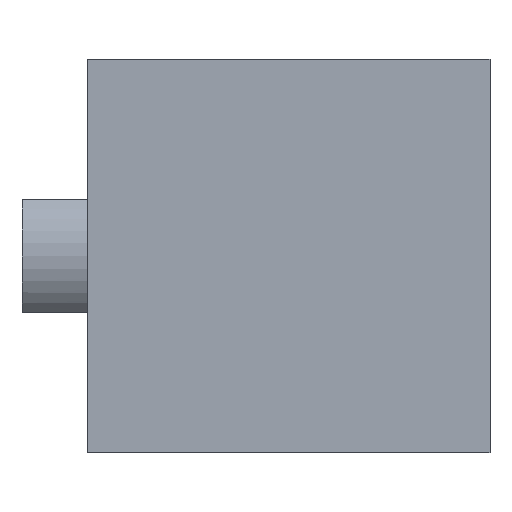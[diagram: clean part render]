
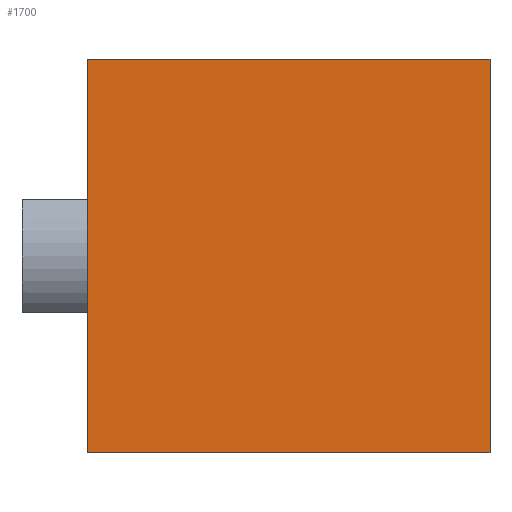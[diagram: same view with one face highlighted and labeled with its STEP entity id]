
A CAD part, front view. The second image highlights one B-rep face of the part: STEP entity #1700.
In plain terms, the highlighted planar face has unit normal (0, -1, 0).
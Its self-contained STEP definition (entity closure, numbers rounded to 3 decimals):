
#45 = CARTESIAN_POINT ( 'NONE',  ( 21.5, -17., -10.5 ) ) ;
#184 = ORIENTED_EDGE ( 'NONE', *, *, #2168, .T. ) ;
#232 = DIRECTION ( 'NONE',  ( -1., 0., 0. ) ) ;
#259 = CARTESIAN_POINT ( 'NONE',  ( 0., -17., -10.5 ) ) ;
#281 = LINE ( 'NONE', #45, #3119 ) ;
#326 = CARTESIAN_POINT ( 'NONE',  ( 21.5, -17., -10.5 ) ) ;
#432 = DIRECTION ( 'NONE',  ( 1., 0., 0. ) ) ;
#494 = LINE ( 'NONE', #259, #3007 ) ;
#496 = FACE_OUTER_BOUND ( 'NONE', #783, .T. ) ;
#595 = VERTEX_POINT ( 'NONE', #2249 ) ;
#761 = CARTESIAN_POINT ( 'NONE',  ( 21.5, -17., 10.5 ) ) ;
#783 = EDGE_LOOP ( 'NONE', ( #1739, #1786, #2256, #184 ) ) ;
#946 = VECTOR ( 'NONE', #2702, 1000. ) ;
#1337 = VERTEX_POINT ( 'NONE', #2469 ) ;
#1439 = DIRECTION ( 'NONE',  ( 0., -1., 0. ) ) ;
#1568 = LINE ( 'NONE', #326, #946 ) ;
#1699 = VERTEX_POINT ( 'NONE', #2667 ) ;
#1700 = ADVANCED_FACE ( 'NONE', ( #496 ), #1890, .T. ) ;
#1731 = DIRECTION ( 'NONE',  ( -1., 0., 0. ) ) ;
#1739 = ORIENTED_EDGE ( 'NONE', *, *, #3059, .F. ) ;
#1786 = ORIENTED_EDGE ( 'NONE', *, *, #2160, .F. ) ;
#1881 = VECTOR ( 'NONE', #1731, 1000. ) ;
#1890 = PLANE ( 'NONE',  #2246 ) ;
#2160 = EDGE_CURVE ( 'NONE', #595, #1337, #281, .T. ) ;
#2168 = EDGE_CURVE ( 'NONE', #1699, #2487, #2405, .T. ) ;
#2195 = DIRECTION ( 'NONE',  ( 0., 0., 1. ) ) ;
#2246 = AXIS2_PLACEMENT_3D ( 'NONE', #2623, #1439, #432 ) ;
#2249 = CARTESIAN_POINT ( 'NONE',  ( 21.5, -17., -10.5 ) ) ;
#2256 = ORIENTED_EDGE ( 'NONE', *, *, #2758, .T. ) ;
#2405 = LINE ( 'NONE', #761, #1881 ) ;
#2469 = CARTESIAN_POINT ( 'NONE',  ( 0., -17., -10.5 ) ) ;
#2487 = VERTEX_POINT ( 'NONE', #2617 ) ;
#2617 = CARTESIAN_POINT ( 'NONE',  ( 0., -17., 10.5 ) ) ;
#2623 = CARTESIAN_POINT ( 'NONE',  ( 21.5, -17., -10.5 ) ) ;
#2667 = CARTESIAN_POINT ( 'NONE',  ( 21.5, -17., 10.5 ) ) ;
#2702 = DIRECTION ( 'NONE',  ( 0., 0., 1. ) ) ;
#2758 = EDGE_CURVE ( 'NONE', #595, #1699, #1568, .T. ) ;
#3007 = VECTOR ( 'NONE', #2195, 1000. ) ;
#3059 = EDGE_CURVE ( 'NONE', #1337, #2487, #494, .T. ) ;
#3119 = VECTOR ( 'NONE', #232, 1000. ) ;
